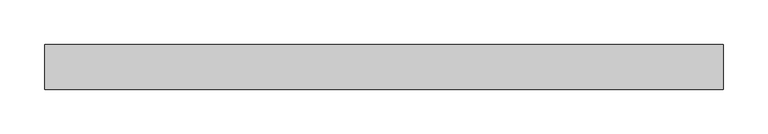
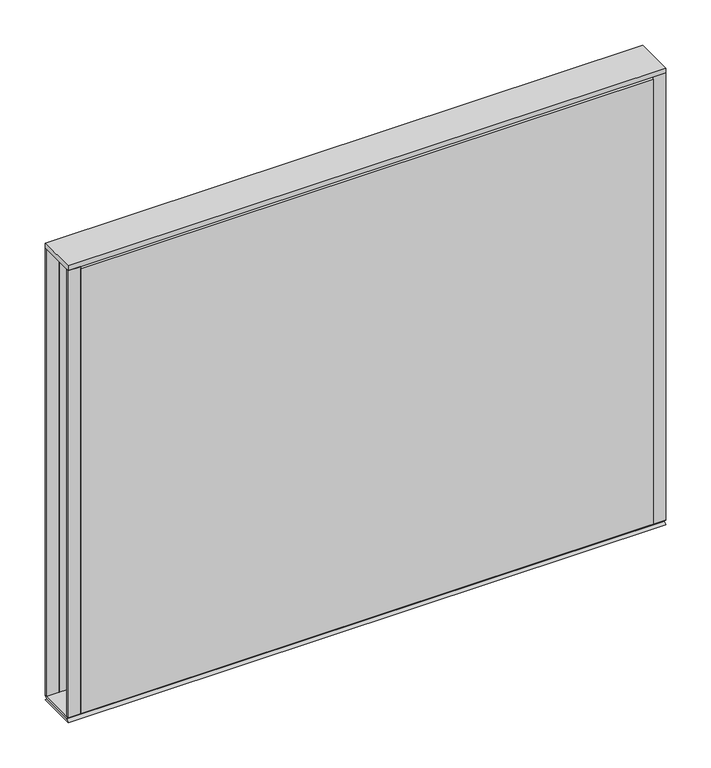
"""IFC4 building model written with IfcOpenShell, lengths in millimetres: furniture geometry, Steelcase - Kick Solutions - Panel - Stacker - Tackable Acoustical : 24H x 30W."""

from ifc_helpers import new_model, si_unit, frame, origin, place, context, project, spatial, polyline, outline, extrude, source, transform, mapped, element, save


def furniture_b124e028(model_context):
    return source(origin(), model_context, "Body", "SweptSolid", [
        extrude(outline(polyline([(-50.7995075, 1073.2669139), (-0.000494, 1073.2669139), (-3.1752531, 1070.0921549), (-47.6247484, 1070.0921549), (-50.7995075, 1073.2669139)])), frame((0.0, 0.0, 0.0), z_axis=(1.0, 0.0, 0.0), x_axis=(0.0, 1.0, 0.0)), (0.0, 0.0, 1.0), 762.0),
        extrude(outline(polyline([(0.0, 1073.2669139), (-3.1750015, 1073.2669139), (-3.1750015, 1676.5169018), (0.0, 1673.4357466), (0.0, 1073.2669139)])), frame((15.8749996, 0.0, 0.0), z_axis=(1.0, 0.0, 0.0), x_axis=(0.0, 1.0, 0.0)), (0.0, 0.0, 1.0), 730.2500008),
        extrude(outline(polyline([(-50.8000015, 1073.2669139), (-50.8000015, 1673.4357466), (-47.625, 1676.5169018), (-47.625, 1073.2669139), (-50.8000015, 1073.2669139)])), frame((15.8749996, 0.0, 0.0), z_axis=(1.0, 0.0, 0.0), x_axis=(0.0, 1.0, 0.0)), (0.0, 0.0, 1.0), 730.2500008),
        extrude(outline(polyline([(762.0, -3.1750015), (746.1250004, -3.1750015), (746.1250004, 0.0), (762.0, 0.0), (762.0, -3.1750015)])), frame((0.0, 0.0, 1073.2669139), z_axis=(0.0, 0.0, 1.0), x_axis=(1.0, 0.0, 0.0)), (0.0, 0.0, 1.0), 603.2499879),
        extrude(outline(polyline([(15.8749996, -50.8000015), (0.0, -50.8000015), (0.0, -47.625), (15.8749996, -47.625), (15.8749996, -50.8000015)])), frame((0.0, 0.0, 1073.2669139), z_axis=(0.0, 0.0, 1.0), x_axis=(1.0, 0.0, 0.0)), (0.0, 0.0, 1.0), 603.2499879),
        extrude(outline(polyline([(762.0, 0.0), (762.0, -50.8000015), (0.0, -50.8000015), (0.0, 0.0), (762.0, 0.0)])), frame((0.0, 0.0, 1676.5169018), z_axis=(0.0, 0.0, 1.0), x_axis=(1.0, 0.0, 0.0)), (0.0, 0.0, 1.0), 6.35),
        extrude(outline(polyline([(15.8749996, -3.1750015), (0.0, -3.1750015), (0.0, 0.0), (15.8749996, 0.0), (15.8749996, -3.1750015)])), frame((0.0, 0.0, 1073.2669139), z_axis=(0.0, 0.0, 1.0), x_axis=(1.0, 0.0, 0.0)), (0.0, 0.0, 1.0), 603.2499879),
        extrude(outline(polyline([(762.0, -50.8000015), (746.1250004, -50.8000015), (746.1250004, -47.625), (762.0, -47.625), (762.0, -50.8000015)])), frame((0.0, 0.0, 1073.2669139), z_axis=(0.0, 0.0, 1.0), x_axis=(1.0, 0.0, 0.0)), (0.0, 0.0, 1.0), 603.2499879),
        extrude(outline(polyline([(-50.8000015, 1066.9169018), (-47.6247484, 1070.0921549), (-3.1752531, 1070.0921549), (0.0, 1066.9169018), (-50.8000015, 1066.9169018)])), frame((0.0, 0.0, 0.0), z_axis=(1.0, 0.0, 0.0), x_axis=(0.0, 1.0, 0.0)), (0.0, 0.0, 1.0), 762.0),
    ])


if __name__ == "__main__":
    model = new_model("IFC4")
    model_context = context("Model", 3, world=origin())
    ifc_project = project(units=[si_unit("LENGTHUNIT", "METRE", prefix="MILLI")], contexts=[model_context])
    site = spatial("IfcSite", under=ifc_project)
    building = spatial("IfcBuilding", under=site)
    placement = place(None, origin())
    furniture_shape = furniture_b124e028(model_context)
    element("IfcFurniture", 1, ObjectType="Steelcase - Kick Solutions - Panel - Stacker - Tackable Acoustical : 24H x 30W", at=placement, inside=building, context=model_context, shape_type="MappedRepresentation", body=[
        mapped(furniture_shape, transform((0.0, 0.0, 0.0), x_axis=(1.0, 0.0, 0.0), y_axis=(0.0, 1.0, 0.0), z_axis=(0.0, 0.0, 1.0))),
    ])
    save(model, "model.ifc")
